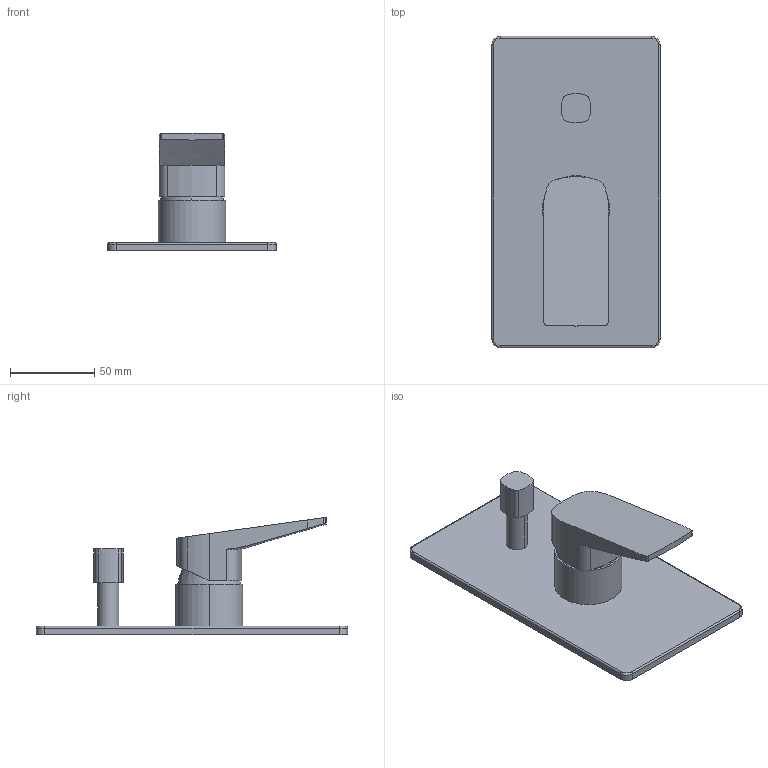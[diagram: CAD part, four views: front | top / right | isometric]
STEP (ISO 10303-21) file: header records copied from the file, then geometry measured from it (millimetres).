
FILE_DESCRIPTION(('FreeCAD Model'),'2;1');
FILE_NAME('Open CASCADE Shape Model','2024-11-19T14:28:49',('Author'),( ''),'Open CASCADE STEP processor 7.6','FreeCAD','Unknown');
FILE_SCHEMA(('AUTOMOTIVE_DESIGN { 1 0 10303 214 1 1 1 1 }'));
Length unit declared in the file: millimetre
Products named in the file (2): TopLevelAssembly; Połączona geometria bryłowa
Assembly tree (1 placements, depth 2):
  TopLevelAssembly
    Połączona geometria bryłowa
Bounding box: 100 x 185 x 69.82 mm (x, y, z)
Volume: 187076.1 mm3; surface area: 54299 mm2
Topology: 1 solids, 1 shells, 56 faces, 138 edges, 88 vertices
Faces by surface type: cylinder 33, plane 14, bspline 9
Entity records: 1821 total; most frequent: CARTESIAN_POINT 446, DIRECTION 296, ORIENTED_EDGE 276, EDGE_CURVE 138, AXIS2_PLACEMENT_3D 120, VERTEX_POINT 88, FACE_BOUND 60, EDGE_LOOP 60
